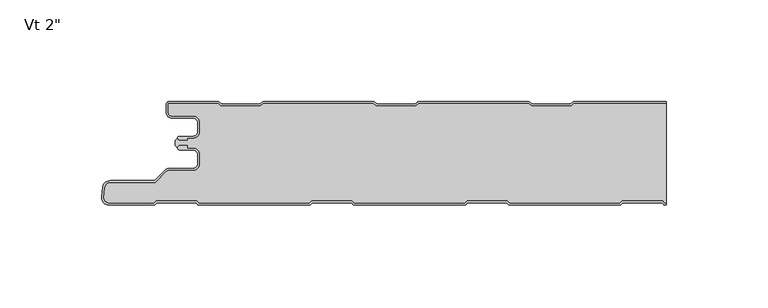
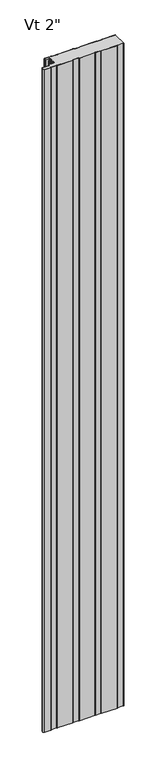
"""IFC4 building model written with IfcOpenShell, lengths in millimetres: plate geometry."""

from ifc_helpers import new_model, si_unit, point, frame, frame_2d, origin, origin_with_axes, place, context, project, spatial, polyline, circle_curve, trimmed, segment, composite_curve, outline, extrude, source, transform, mapped, element, save
from ifc_brep_helpers import plane_surface, cylinder_surface, revolved_surface, advanced_brep


def plate_7f2e1a05(model_context):
    return source(origin(), model_context, "Body", "SolidModel", [
        extrude(outline(composite_curve([segment(polyline([(-119.3683, -22.4760035), (-120.3999998, -21.4443036), (-120.3999998, -19.0391626), (-119.3686882, -18.0078509)]), True, "CONTINUOUS"), segment(trimmed(circle_curve(frame_2d((-118.368691, -18.007845)), 0.9999972), [point((-119.3686882, -18.0078509))], [point((-118.368691, -19.0078422))], True, "CARTESIAN"), True, "CONTINUOUS"), segment(polyline([(-118.368691, -19.0078422), (-114.3684873, -19.0078422), (-114.3684873, -18.0078476), (-111.6762775, -18.0078476)]), True, "CONTINUOUS"), segment(trimmed(circle_curve(frame_2d((-111.6762775, -14.707852)), 3.2999957), [point((-111.6762775, -18.0078476))], [point((-108.3762818, -14.707852))], True, "CARTESIAN"), True, "CONTINUOUS"), segment(polyline([(-108.3762818, -14.707852), (-108.3762818, -10.3078607)]), True, "CONTINUOUS"), segment(trimmed(circle_curve(frame_2d((-111.6762777, -10.3078607)), 3.2999959), [point((-108.3762818, -10.3078607))], [point((-111.6762777, -7.0078649))], True, "CARTESIAN"), True, "CONTINUOUS"), segment(polyline([(-111.6762777, -7.0078649), (-122.0962562, -7.0078649)]), True, "CONTINUOUS"), segment(trimmed(circle_curve(frame_2d((-122.0962562, -5.2378707)), 1.7699942), [point((-122.0962562, -7.0078649))], [point((-123.8662504, -5.2378707))], False, "CARTESIAN"), True, "CONTINUOUS"), segment(polyline([(-123.8662504, -5.2378707), (-123.8662504, -1.0063234), (-99.3659738, -1.0063234), (-97.9803312, -2.2065624), (-78.6051649, -2.2065624), (-77.2195319, -1.0063317), (-23.1661165, -1.0063317), (-21.7804836, -2.2065624), (-2.4053173, -2.2065624), (-1.0196843, -1.0063317), (53.0337311, -1.0063317), (54.419364, -2.2065624), (73.7945303, -2.2065624), (75.1801633, -1.0063317), (120.3999998, -1.0063317), (120.3999998, -49.7999874), (119.8405328, -49.7999874), (118.6403021, -48.5997567), (98.9208896, -48.5997567), (97.7206589, -49.7999874), (43.6405271, -49.7999874), (42.4402964, -48.5997567), (22.7208839, -48.5997567), (21.5206532, -49.7999874), (-32.5594786, -49.7999874), (-33.7597093, -48.5997567), (-53.4791218, -48.5997567), (-54.6793525, -49.7999874), (-108.7594843, -49.7999874), (-109.959715, -48.5997567), (-129.6791275, -48.5997567), (-130.879096, -49.7997253), (-152.8521175, -49.7997253)]), True, "CONTINUOUS"), segment(trimmed(circle_curve(frame_2d((-152.8521175, -47.229486)), 2.5702393), [point((-152.8521175, -49.7997253))], [point((-155.4125697, -47.0054003))], False, "CARTESIAN"), True, "CONTINUOUS"), segment(polyline([(-155.4125697, -47.0054003), (-154.9765707, -42.0235795)]), True, "CONTINUOUS"), segment(trimmed(circle_curve(frame_2d((-152.3198391, -42.5049701)), 2.6999926), [point((-154.9765707, -42.0235795))], [point((-152.3198391, -39.8049775))], False, "CARTESIAN"), True, "CONTINUOUS"), segment(polyline([(-152.3198391, -39.8049775), (-130.2247094, -39.8049775), (-124.7226383, -34.3029064)]), True, "CONTINUOUS"), segment(trimmed(circle_curve(frame_2d((-123.5205606, -35.5049841)), 1.6999946), [point((-124.7226383, -34.3029064))], [point((-123.5205606, -33.8049895))], False, "CARTESIAN"), True, "CONTINUOUS"), segment(polyline([(-123.5205606, -33.8049895), (-111.7096715, -33.8049895)]), True, "CONTINUOUS"), segment(trimmed(circle_curve(frame_2d((-111.7096715, -30.4549942)), 3.3499953), [point((-111.7096715, -33.8049895))], [point((-108.3596762, -30.4549942))], True, "CARTESIAN"), True, "CONTINUOUS"), segment(polyline([(-108.3596762, -30.4549942), (-108.3596762, -26.055003)]), True, "CONTINUOUS"), segment(trimmed(circle_curve(frame_2d((-111.7096715, -26.055003)), 3.3499953), [point((-108.3596762, -26.055003))], [point((-111.7096715, -22.7050077))], True, "CARTESIAN"), True, "CONTINUOUS"), segment(polyline([(-111.7096715, -22.7050077), (-114.4087826, -22.7050077), (-114.4087826, -21.3065288), (-118.167176, -21.3065288)]), True, "CONTINUOUS"), segment(trimmed(circle_curve(frame_2d((-118.1686906, -22.5065254)), 1.1999976), [point((-118.167176, -21.3065288))], [point((-119.3683, -22.4760035))], True, "CARTESIAN"), True, "CONTINUOUS")], self_intersect=False)), origin_with_axes(), (0.0, 0.0, 1.0), 2400.0),
        advanced_brep(
        [(-118.368691, -17.0015034, 2400.0), (-119.3686883, -18.0015065, 2400.0), (-118.368691, -19.0014978, 2400.0), (-114.3684874, -19.0014979, 2400.0), (-114.3684874, -18.0015034, 2400.0), (-111.6762776, -18.0015034, 2400.0), (-108.3762819, -14.7015077, 2400.0), (-108.3762819, -10.3015164, 2400.0), (-111.6762774, -7.001521, 2400.0), (-122.0962563, -7.001521, 2400.0), (-123.8662505, -5.2315268, 2400.0), (-123.8662505, -0.9999791, 2400.0), (-99.3659738, -0.9999791, 2400.0), (-97.9803312, -2.2002182, 2400.0), (-78.6051649, -2.2002182, 2400.0), (-77.219532, -0.9999874, 2400.0), (-23.1661166, -0.9999874, 2400.0), (-21.7804836, -2.2002182, 2400.0), (-2.4053173, -2.2002182, 2400.0), (-1.0196844, -0.9999874, 2400.0), (53.033731, -0.9999874, 2400.0), (54.419364, -2.2002182, 2400.0), (73.7945303, -2.2002182, 2400.0), (75.1801632, -0.9999874, 2400.0), (120.3999998, -0.9999874, 2400.0), (120.3999998, 1.26e-05, 2400.0), (75.3293144, 1.26e-05, 2400.0), (74.4126975, -0.3417759, 2400.0), (73.4216499, -1.2002182, 2400.0), (54.7922444, -1.2002182, 2400.0), (53.8011968, -0.3417759, 2400.0), (52.8845799, 1.26e-05, 2400.0), (-0.8705332, 1.26e-05, 2400.0), (-1.7871501, -0.3417759, 2400.0), (-2.7781977, -1.2002182, 2400.0), (-21.4076032, -1.2002182, 2400.0), (-22.3986508, -0.3417759, 2400.0), (-23.3152677, 1.26e-05, 2400.0), (-77.0703808, 1.26e-05, 2400.0), (-77.9869977, -0.3417759, 2400.0), (-78.9780453, -1.2002182, 2400.0), (-97.6074508, -1.2002182, 2400.0), (-98.5984984, -0.3417759, 2400.0), (-99.5152067, 1.26e-05, 2400.0), (-123.4662543, 2.09e-05, 2400.0), (-124.8662505, -1.3999752, 2400.0), (-124.8662505, -5.2315268, 2400.0), (-122.0962563, -8.001521, 2400.0), (-111.6762774, -8.001521, 2400.0), (-109.3762819, -10.3015164, 2400.0), (-109.3762819, -14.7015077, 2400.0), (-111.6762776, -17.0015034, 2400.0), (-118.368691, -17.0015034, 0.0), (-111.6762776, -17.0015034, 0.0), (-109.3762819, -14.7015077, 0.0), (-109.3762819, -10.3015164, 0.0), (-111.6762774, -8.001521, 0.0), (-122.0962563, -8.001521, 0.0), (-124.8662505, -5.2315268, 0.0), (-124.8662505, -1.3999752, 0.0), (-123.4662543, 2.09e-05, 0.0), (-99.5151153, 2.09e-05, 0.0), (-98.5984984, -0.3417759, 0.0), (-97.6074508, -1.2002182, 0.0), (-78.9780453, -1.2002182, 0.0), (-77.9869977, -0.3417759, 0.0), (-77.0703808, 1.26e-05, 0.0), (-23.3152677, 1.26e-05, 0.0), (-22.3986508, -0.3417759, 0.0), (-21.4076032, -1.2002182, 0.0), (-2.7781977, -1.2002182, 0.0), (-1.7871501, -0.3417759, 0.0), (-0.8705332, 1.26e-05, 0.0), (52.8845799, 1.26e-05, 0.0), (53.8011968, -0.3417759, 0.0), (54.7922444, -1.2002182, 0.0), (73.4216499, -1.2002182, 0.0), (74.4126975, -0.3417759, 0.0), (75.3293144, 1.26e-05, 0.0), (120.3999998, 1.26e-05, 0.0), (120.3999998, -0.9999874, 0.0), (75.1801632, -0.9999874, 0.0), (73.7945303, -2.2002182, 0.0), (54.419364, -2.2002182, 0.0), (53.033731, -0.9999874, 0.0), (-1.0196844, -0.9999874, 0.0), (-2.4053173, -2.2002182, 0.0), (-21.7804836, -2.2002182, 0.0), (-23.1661166, -0.9999874, 0.0), (-77.219532, -0.9999874, 0.0), (-78.6051649, -2.2002182, 0.0), (-97.9803312, -2.2002182, 0.0), (-99.3659738, -0.9999791, 0.0), (-123.8662505, -0.9999791, 0.0), (-123.8662505, -5.2315268, 0.0), (-122.0962563, -7.001521, 0.0), (-111.6762774, -7.001521, 0.0), (-108.3762819, -10.3015164, 0.0), (-108.3762819, -14.7015077, 0.0), (-111.6762776, -18.0015034, 0.0), (-114.3684874, -18.0015034, 0.0), (-114.3684874, -19.0014979, 0.0), (-118.368691, -19.0014979, 0.0), (-119.3686882, -18.0015065, 0.0)],
        [
            (0, 1, circle_curve(frame((-118.368691, -18.0015006, 2400.0), z_axis=(0.0, 0.0, 1.0), x_axis=(1.0, 0.0, 0.0)), 0.9999973)),
            (1, 2, circle_curve(frame((-118.368691, -18.0015006, 2400.0), z_axis=(0.0, 0.0, 1.0), x_axis=(1.0, 0.0, 0.0)), 0.9999972)),
            (2, 3),
            (3, 4),
            (4, 5),
            (5, 6, circle_curve(frame((-111.6762776, -14.7015077, 2400.0), z_axis=(0.0, 0.0, 1.0), x_axis=(1.0, 0.0, 0.0)), 3.2999957)),
            (6, 7),
            (7, 8, circle_curve(frame((-111.6762774, -10.3015164, 2400.0), z_axis=(0.0, 0.0, 1.0), x_axis=(1.0, 0.0, 0.0)), 3.2999955)),
            (8, 9),
            (9, 10, circle_curve(frame((-122.0962563, -5.2315268, 2400.0), z_axis=(0.0, 0.0, -1.0), x_axis=(1.0, 0.0, 0.0)), 1.7699942)),
            (10, 11),
            (11, 12),
            (12, 13),
            (13, 14),
            (14, 15),
            (15, 16),
            (16, 17),
            (17, 18),
            (18, 19),
            (19, 20),
            (20, 21),
            (21, 22),
            (22, 23),
            (23, 24),
            (24, 25),
            (25, 26),
            (26, 27, circle_curve(frame((75.3293144, -1.3999846, 2400.0), z_axis=(0.0, 0.0, 1.0), x_axis=(1.0, 0.0, 0.0)), 1.3999972)),
            (27, 28),
            (28, 29),
            (29, 30),
            (30, 31, circle_curve(frame((52.8845799, -1.3999846, 2400.0), z_axis=(0.0, 0.0, 1.0), x_axis=(1.0, 0.0, 0.0)), 1.3999972)),
            (31, 32),
            (32, 33, circle_curve(frame((-0.8705332, -1.3999846, 2400.0), z_axis=(0.0, 0.0, 1.0), x_axis=(1.0, 0.0, 0.0)), 1.3999972)),
            (33, 34),
            (34, 35),
            (35, 36),
            (36, 37, circle_curve(frame((-23.3152677, -1.3999846, 2400.0), z_axis=(0.0, 0.0, 1.0), x_axis=(1.0, 0.0, 0.0)), 1.3999972)),
            (37, 38),
            (38, 39, circle_curve(frame((-77.0703808, -1.3999846, 2400.0), z_axis=(0.0, 0.0, 1.0), x_axis=(1.0, 0.0, 0.0)), 1.3999972)),
            (39, 40),
            (40, 41),
            (41, 42),
            (42, 43, circle_curve(frame((-99.5151153, -1.3999846, 2400.0), z_axis=(0.0, 0.0, 1.0), x_axis=(1.0, 0.0, 0.0)), 1.3999972)),
            (43, 44),
            (44, 45, circle_curve(frame((-123.4662543, -1.3999752, 2400.0), z_axis=(0.0, 0.0, 1.0), x_axis=(1.0, 0.0, 0.0)), 1.3999962)),
            (45, 46),
            (46, 47, circle_curve(frame((-122.0962563, -5.2315268, 2400.0), z_axis=(0.0, 0.0, 1.0), x_axis=(1.0, 0.0, 0.0)), 2.7699942)),
            (47, 48),
            (48, 49, circle_curve(frame((-111.6762774, -10.3015164, 2400.0), z_axis=(0.0, 0.0, -1.0), x_axis=(1.0, 0.0, 0.0)), 2.2999955)),
            (49, 50),
            (50, 51, circle_curve(frame((-111.6762776, -14.7015077, 2400.0), z_axis=(0.0, 0.0, -1.0), x_axis=(1.0, 0.0, 0.0)), 2.2999957)),
            (51, 0),
            (52, 53),
            (53, 54, circle_curve(frame((-111.6762776, -14.7015077, 0.0), z_axis=(0.0, 0.0, 1.0), x_axis=(1.0, 0.0, 0.0)), 2.2999957)),
            (54, 55),
            (55, 56, circle_curve(frame((-111.6762774, -10.3015164, 0.0), z_axis=(0.0, 0.0, 1.0), x_axis=(1.0, 0.0, 0.0)), 2.2999955)),
            (56, 57),
            (57, 58, circle_curve(frame((-122.0962563, -5.2315268, 0.0), z_axis=(0.0, 0.0, -1.0), x_axis=(1.0, 0.0, 0.0)), 2.7699942)),
            (58, 59),
            (59, 60, circle_curve(frame((-123.4662543, -1.3999752, 0.0), z_axis=(0.0, 0.0, -1.0), x_axis=(1.0, 0.0, 0.0)), 1.3999962)),
            (60, 61),
            (61, 62, circle_curve(frame((-99.5151153, -1.3999846, 0.0), z_axis=(0.0, 0.0, -1.0), x_axis=(1.0, 0.0, 0.0)), 1.3999972)),
            (62, 63),
            (63, 64),
            (64, 65),
            (65, 66, circle_curve(frame((-77.0703808, -1.3999846, 0.0), z_axis=(0.0, 0.0, -1.0), x_axis=(1.0, 0.0, 0.0)), 1.3999972)),
            (66, 67),
            (67, 68, circle_curve(frame((-23.3152677, -1.3999846, 0.0), z_axis=(0.0, 0.0, -1.0), x_axis=(1.0, 0.0, 0.0)), 1.3999972)),
            (68, 69),
            (69, 70),
            (70, 71),
            (71, 72, circle_curve(frame((-0.8705332, -1.3999846, 0.0), z_axis=(0.0, 0.0, -1.0), x_axis=(1.0, 0.0, 0.0)), 1.3999972)),
            (72, 73),
            (73, 74, circle_curve(frame((52.8845799, -1.3999846, 0.0), z_axis=(0.0, 0.0, -1.0), x_axis=(1.0, 0.0, 0.0)), 1.3999972)),
            (74, 75),
            (75, 76),
            (76, 77),
            (77, 78, circle_curve(frame((75.3293144, -1.3999846, 0.0), z_axis=(0.0, 0.0, -1.0), x_axis=(1.0, 0.0, 0.0)), 1.3999972)),
            (78, 79),
            (79, 80),
            (80, 81),
            (81, 82),
            (82, 83),
            (83, 84),
            (84, 85),
            (85, 86),
            (86, 87),
            (87, 88),
            (88, 89),
            (89, 90),
            (90, 91),
            (91, 92),
            (92, 93),
            (93, 94),
            (94, 95, circle_curve(frame((-122.0962563, -5.2315268, 0.0), z_axis=(0.0, 0.0, 1.0), x_axis=(1.0, 0.0, 0.0)), 1.7699942)),
            (95, 96),
            (96, 97, circle_curve(frame((-111.6762774, -10.3015164, 0.0), z_axis=(0.0, 0.0, -1.0), x_axis=(1.0, 0.0, 0.0)), 3.2999955)),
            (97, 98),
            (98, 99, circle_curve(frame((-111.6762776, -14.7015077, 0.0), z_axis=(0.0, 0.0, -1.0), x_axis=(1.0, 0.0, 0.0)), 3.2999957)),
            (99, 100),
            (100, 101),
            (101, 102),
            (102, 103, circle_curve(frame((-118.368691, -18.0015006, 0.0), z_axis=(0.0, 0.0, -1.0), x_axis=(1.0, 0.0, 0.0)), 0.9999972)),
            (103, 52, circle_curve(frame((-118.368691, -18.0015006, 0.0), z_axis=(0.0, 0.0, -1.0), x_axis=(1.0, 0.0, 0.0)), 0.9999973)),
            (24, 80),
            (79, 25),
            (51, 53),
            (52, 0),
            (50, 54),
            (49, 55),
            (48, 56),
            (47, 57),
            (46, 58),
            (45, 59),
            (44, 60),
            (43, 61),
            (78, 26),
            (42, 62),
            (41, 63),
            (40, 64),
            (38, 66),
            (65, 39),
            (36, 68),
            (67, 37),
            (77, 27),
            (76, 28),
            (31, 73),
            (72, 32),
            (71, 33),
            (34, 70),
            (69, 35),
            (30, 74),
            (29, 75),
            (2, 102),
            (101, 3),
            (1, 103),
            (23, 81),
            (22, 82),
            (21, 83),
            (20, 84),
            (19, 85),
            (18, 86),
            (17, 87),
            (16, 88),
            (15, 89),
            (14, 90),
            (13, 91),
            (12, 92),
            (11, 93),
            (10, 94),
            (9, 95),
            (8, 96),
            (7, 97),
            (6, 98),
            (5, 99),
            (4, 100),
        ],
        [
            plane_surface(frame((184.4000002, 1.26e-05, 2400.0), z_axis=(0.0, 0.0, 1.0), x_axis=(0.0, 1.0, 0.0))),
            plane_surface(frame((184.4000002, 1.26e-05, 0.0), z_axis=(0.0, 0.0, -1.0), x_axis=(0.0, 1.0, 0.0))),
            plane_surface(frame((120.3999998, -60.7999874, 2400.0), z_axis=(1.0, 0.0, 0.0), x_axis=(0.0, 0.0, -1.0))),
            plane_surface(frame((-118.368691, -17.0015034, 2400.0), z_axis=(0.0, 1.0, 0.0), x_axis=(0.0, 0.0, -1.0))),
            revolved_surface(polyline([(-109.37628190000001, -14.7015077, 0.0), (-109.37628190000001, -14.7015077, 2400.0)]), (-111.6762776, -14.7015077, 2400.0), (0.0, 0.0, -1.0)),
            plane_surface(frame((-109.3762819, -14.7015077, 2400.0), z_axis=(-1.0, 0.0, 0.0), x_axis=(0.0, 0.0, -1.0))),
            revolved_surface(polyline([(-109.37628190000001, -10.3015164, 0.0), (-109.37628190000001, -10.3015164, 2400.0)]), (-111.6762774, -10.3015164, 2400.0), (0.0, 0.0, -1.0)),
            plane_surface(frame((-111.6762774, -8.001521, 2400.0), z_axis=(0.0, -1.0, 0.0), x_axis=(0.0, 0.0, -1.0))),
            cylinder_surface(frame((-122.0962563, -5.2315268, 2400.0), z_axis=(0.0, 0.0, 1.0), x_axis=(1.0, 0.0, 0.0)), 2.7699942),
            plane_surface(frame((-124.8662505, -5.2315268, 2400.0), z_axis=(-1.0, 0.0, 0.0), x_axis=(0.0, 0.0, -1.0))),
            cylinder_surface(frame((-123.4662543, -1.3999752, 2400.0), z_axis=(0.0, 0.0, 1.0), x_axis=(1.0, 0.0, 0.0)), 1.3999962),
            plane_surface(frame((-123.4662543, 2.09e-05, 2400.0), z_axis=(0.0, 1.0, 0.0), x_axis=(0.0, 0.0, -1.0))),
            plane_surface(frame((75.3293144, 1.26e-05, 2400.0), z_axis=(0.0, 1.0, 0.0), x_axis=(0.0, 0.0, -1.0))),
            cylinder_surface(frame((-99.5151153, -1.3999846, 2400.0), z_axis=(0.0, 0.0, 1.0), x_axis=(1.0, 0.0, 0.0)), 1.3999972),
            plane_surface(frame((-98.5984984, -0.3417759, 2400.0), z_axis=(0.6547276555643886, 0.755864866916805, 0.0), x_axis=(0.0, 0.0, -1.0))),
            plane_surface(frame((-88.2927481, -1.2002182, 2400.0), z_axis=(0.0, 1.0, 0.0), x_axis=(0.0, 0.0, -1.0))),
            cylinder_surface(frame((-77.0703808, -1.3999846, 2400.0), z_axis=(0.0, 0.0, 1.0), x_axis=(1.0, 0.0, 0.0)), 1.3999972),
            plane_surface(frame((-78.9780453, -1.2002182, 2400.0), z_axis=(-0.6547276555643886, 0.755864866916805, 0.0), x_axis=(0.0, 0.0, -1.0))),
            cylinder_surface(frame((-23.3152677, -1.3999846, 2400.0), z_axis=(0.0, 0.0, 1.0), x_axis=(1.0, 0.0, 0.0)), 1.3999972),
            cylinder_surface(frame((75.3293144, -1.3999846, 2400.0), z_axis=(0.0, 0.0, 1.0), x_axis=(1.0, 0.0, 0.0)), 1.3999972),
            plane_surface(frame((73.4216499, -1.2002182, 2400.0), z_axis=(-0.6547276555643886, 0.755864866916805, 0.0), x_axis=(0.0, 0.0, -1.0))),
            plane_surface(frame((-0.8705332, 1.26e-05, 2400.0), z_axis=(0.0, 1.0, 0.0), x_axis=(0.0, 0.0, -1.0))),
            cylinder_surface(frame((-0.8705332, -1.3999846, 2400.0), z_axis=(0.0, 0.0, 1.0), x_axis=(1.0, 0.0, 0.0)), 1.3999972),
            plane_surface(frame((-12.0929005, -1.2002182, 2400.0), z_axis=(0.0, 1.0, 0.0), x_axis=(0.0, 0.0, -1.0))),
            plane_surface(frame((-22.3986508, -0.3417759, 2400.0), z_axis=(0.6547276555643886, 0.755864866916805, 0.0), x_axis=(0.0, 0.0, -1.0))),
            plane_surface(frame((-2.7781977, -1.2002182, 2400.0), z_axis=(-0.6547276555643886, 0.755864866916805, 0.0), x_axis=(0.0, 0.0, -1.0))),
            plane_surface(frame((-77.0703808, 1.26e-05, 2400.0), z_axis=(0.0, 1.0, 0.0), x_axis=(0.0, 0.0, -1.0))),
            cylinder_surface(frame((52.8845799, -1.3999846, 2400.0), z_axis=(0.0, 0.0, 1.0), x_axis=(1.0, 0.0, 0.0)), 1.3999972),
            plane_surface(frame((53.8011968, -0.3417759, 2400.0), z_axis=(0.6547276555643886, 0.755864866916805, 0.0), x_axis=(0.0, 0.0, -1.0))),
            plane_surface(frame((64.1069471, -1.2002182, 2400.0), z_axis=(0.0, 1.0, 0.0), x_axis=(0.0, 0.0, -1.0))),
            plane_surface(frame((-114.3684874, -19.0014979, 2400.0), z_axis=(0.0, -1.0, 0.0), x_axis=(0.0, 0.0, -1.0))),
            cylinder_surface(frame((-118.368691, -18.0015006, 2400.0), z_axis=(0.0, 0.0, 1.0), x_axis=(1.0, 0.0, 0.0)), 0.9999972),
            cylinder_surface(frame((-118.368691, -18.0015006, 2400.0), z_axis=(0.0, 0.0, 1.0), x_axis=(1.0, 0.0, 0.0)), 0.9999973),
            plane_surface(frame((129.2335786, -0.9999874, 2400.0), z_axis=(0.0, -1.0, 0.0), x_axis=(0.0, 0.0, -1.0))),
            plane_surface(frame((75.1801632, -0.9999874, 2400.0), z_axis=(0.6547276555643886, -0.755864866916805, 0.0), x_axis=(0.0, 0.0, -1.0))),
            plane_surface(frame((73.7945303, -2.2002182, 2400.0), z_axis=(0.0, -1.0, 0.0), x_axis=(0.0, 0.0, -1.0))),
            plane_surface(frame((54.419364, -2.2002182, 2400.0), z_axis=(-0.6547276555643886, -0.755864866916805, 0.0), x_axis=(0.0, 0.0, -1.0))),
            plane_surface(frame((53.033731, -0.9999874, 2400.0), z_axis=(0.0, -1.0, 0.0), x_axis=(0.0, 0.0, -1.0))),
            plane_surface(frame((-1.0196844, -0.9999874, 2400.0), z_axis=(0.6547276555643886, -0.755864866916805, 0.0), x_axis=(0.0, 0.0, -1.0))),
            plane_surface(frame((-2.4053173, -2.2002182, 2400.0), z_axis=(0.0, -1.0, 0.0), x_axis=(0.0, 0.0, -1.0))),
            plane_surface(frame((-21.7804836, -2.2002182, 2400.0), z_axis=(-0.6547276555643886, -0.755864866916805, 0.0), x_axis=(0.0, 0.0, -1.0))),
            plane_surface(frame((-23.1661166, -0.9999874, 2400.0), z_axis=(0.0, -1.0, 0.0), x_axis=(0.0, 0.0, -1.0))),
            plane_surface(frame((-77.219532, -0.9999874, 2400.0), z_axis=(0.6547276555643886, -0.755864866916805, 0.0), x_axis=(0.0, 0.0, -1.0))),
            plane_surface(frame((-78.6051649, -2.2002182, 2400.0), z_axis=(0.0, -1.0, 0.0), x_axis=(0.0, 0.0, -1.0))),
            plane_surface(frame((-97.9803312, -2.2002182, 2400.0), z_axis=(-0.6547276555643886, -0.755864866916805, 0.0), x_axis=(0.0, 0.0, -1.0))),
            plane_surface(frame((-99.3659738, -0.9999791, 2400.0), z_axis=(0.0, -1.0, 0.0), x_axis=(0.0, 0.0, -1.0))),
            plane_surface(frame((-123.8662505, -0.9999791, 2400.0), z_axis=(1.0, 0.0, 0.0), x_axis=(0.0, 0.0, -1.0))),
            revolved_surface(polyline([(-120.3262621, -5.2315268, 0.0), (-120.3262621, -5.2315268, 2400.0)]), (-122.0962563, -5.2315268, 2400.0), (0.0, 0.0, -1.0)),
            plane_surface(frame((-122.0962563, -7.001521, 2400.0), z_axis=(0.0, 1.0, 0.0), x_axis=(0.0, 0.0, -1.0))),
            cylinder_surface(frame((-111.6762774, -10.3015164, 2400.0), z_axis=(0.0, 0.0, 1.0), x_axis=(1.0, 0.0, 0.0)), 3.2999955),
            plane_surface(frame((-108.3762819, -10.3015164, 2400.0), z_axis=(1.0, 0.0, 0.0), x_axis=(0.0, 0.0, -1.0))),
            cylinder_surface(frame((-111.6762776, -14.7015077, 2400.0), z_axis=(0.0, 0.0, 1.0), x_axis=(1.0, 0.0, 0.0)), 3.2999957),
            plane_surface(frame((-111.6762776, -18.0015034, 2400.0), z_axis=(0.0, -1.0, 0.0), x_axis=(0.0, 0.0, -1.0))),
            plane_surface(frame((-114.3684874, -18.0015034, 2400.0), z_axis=(1.0, 0.0, 0.0), x_axis=(0.0, 0.0, -1.0))),
        ],
        [
            (0, [[1, 2, 3, 4, 5, 6, 7, 8, 9, 10, 11, 12, 13, 14, 15, 16, 17, 18, 19, 20, 21, 22, 23, 24, 25, 26, 27, 28, 29, 30, 31, 32, 33, 34, 35, 36, 37, 38, 39, 40, 41, 42, 43, 44, 45, 46, 47, 48, 49, 50, 51, 52]]),
            (1, [[53, 54, 55, 56, 57, 58, 59, 60, 61, 62, 63, 64, 65, 66, 67, 68, 69, 70, 71, 72, 73, 74, 75, 76, 77, 78, 79, 80, 81, 82, 83, 84, 85, 86, 87, 88, 89, 90, 91, 92, 93, 94, 95, 96, 97, 98, 99, 100, 101, 102, 103, 104]]),
            (2, [[105, -80, 106, -25]]),
            (3, [[107, -53, 108, -52]]),
            (4, [[109, -54, -107, -51]]),
            (5, [[110, -55, -109, -50]]),
            (6, [[111, -56, -110, -49]]),
            (7, [[112, -57, -111, -48]]),
            (8, [[113, -58, -112, -47]]),
            (9, [[114, -59, -113, -46]]),
            (10, [[115, -60, -114, -45]]),
            (11, [[116, -61, -115, -44]]),
            (12, [[-26, -106, -79, 117]]),
            (13, [[118, -62, -116, -43]]),
            (14, [[119, -63, -118, -42]]),
            (15, [[120, -64, -119, -41]]),
            (16, [[121, -66, 122, -39]]),
            (17, [[-122, -65, -120, -40]]),
            (18, [[123, -68, 124, -37]]),
            (19, [[-117, -78, 125, -27]]),
            (20, [[-125, -77, 126, -28]]),
            (21, [[127, -73, 128, -32]]),
            (22, [[-128, -72, 129, -33]]),
            (23, [[130, -70, 131, -35]]),
            (24, [[-131, -69, -123, -36]]),
            (25, [[-129, -71, -130, -34]]),
            (26, [[-124, -67, -121, -38]]),
            (27, [[132, -74, -127, -31]]),
            (28, [[133, -75, -132, -30]]),
            (29, [[-126, -76, -133, -29]]),
            (30, [[134, -102, 135, -3]]),
            (31, [[136, -103, -134, -2]]),
            (32, [[-108, -104, -136, -1]]),
            (33, [[-81, -105, -24, 137]]),
            (34, [[138, -82, -137, -23]]),
            (35, [[139, -83, -138, -22]]),
            (36, [[140, -84, -139, -21]]),
            (37, [[141, -85, -140, -20]]),
            (38, [[142, -86, -141, -19]]),
            (39, [[143, -87, -142, -18]]),
            (40, [[144, -88, -143, -17]]),
            (41, [[145, -89, -144, -16]]),
            (42, [[146, -90, -145, -15]]),
            (43, [[147, -91, -146, -14]]),
            (44, [[148, -92, -147, -13]]),
            (45, [[149, -93, -148, -12]]),
            (46, [[150, -94, -149, -11]]),
            (47, [[151, -95, -150, -10]]),
            (48, [[152, -96, -151, -9]]),
            (49, [[153, -97, -152, -8]]),
            (50, [[154, -98, -153, -7]]),
            (51, [[155, -99, -154, -6]]),
            (52, [[156, -100, -155, -5]]),
            (53, [[-135, -101, -156, -4]]),
        ],
    ),
        extrude(outline(composite_curve([segment(polyline([(-131.0415932, -50.7997253), (-152.8521175, -50.7997253)]), True, "CONTINUOUS"), segment(trimmed(circle_curve(frame_2d((-152.8521175, -47.229486)), 3.5702393), [point((-152.8521175, -50.7997253))], [point((-156.4087619, -46.9182156))], False, "CARTESIAN"), True, "CONTINUOUS"), segment(polyline([(-156.4087619, -46.9182156), (-155.9690674, -41.894169)]), True, "CONTINUOUS"), segment(trimmed(circle_curve(frame_2d((-152.3198391, -42.5049701)), 3.6999926), [point((-155.9690674, -41.894169))], [point((-152.3198391, -38.8049775))], False, "CARTESIAN"), True, "CONTINUOUS"), segment(polyline([(-152.3198391, -38.8049775), (-131.1773995, -38.8049775)]), True, "CONTINUOUS"), segment(trimmed(circle_curve(frame_2d((-131.1773995, -37.5049801)), 1.2999974), [point((-131.1773995, -38.8049775))], [point((-130.2581626, -38.4242171))], True, "CARTESIAN"), True, "CONTINUOUS"), segment(polyline([(-130.2581626, -38.4242171), (-125.4297451, -33.5957996)]), True, "CONTINUOUS"), segment(trimmed(circle_curve(frame_2d((-123.5205606, -35.5049841)), 2.6999946), [point((-125.4297451, -33.5957996))], [point((-123.5205606, -32.8049895))], False, "CARTESIAN"), True, "CONTINUOUS"), segment(polyline([(-123.5205606, -32.8049895), (-111.7096715, -32.8049895)]), True, "CONTINUOUS"), segment(trimmed(circle_curve(frame_2d((-111.7096715, -30.4549942)), 2.3499953), [point((-111.7096715, -32.8049895))], [point((-109.3596762, -30.4549942))], True, "CARTESIAN"), True, "CONTINUOUS"), segment(polyline([(-109.3596762, -30.4549942), (-109.3596762, -26.055003)]), True, "CONTINUOUS"), segment(trimmed(circle_curve(frame_2d((-111.7096715, -26.055003)), 2.3499953), [point((-109.3596762, -26.055003))], [point((-111.7096715, -23.7050077))], True, "CARTESIAN"), True, "CONTINUOUS"), segment(polyline([(-111.7096715, -23.7050077), (-118.2289777, -23.7050077)]), True, "CONTINUOUS"), segment(trimmed(circle_curve(frame_2d((-118.1686906, -22.5065254)), 1.1999976), [point((-118.2289777, -23.7050077))], [point((-119.3683, -22.4760035))], False, "CARTESIAN"), True, "CONTINUOUS"), segment(trimmed(circle_curve(frame_2d((-118.1686906, -22.5065254)), 1.1999976), [point((-119.3683, -22.4760035))], [point((-118.167176, -21.3065288))], False, "CARTESIAN"), True, "CONTINUOUS"), segment(polyline([(-118.167176, -21.3065288), (-114.4087826, -21.3065288), (-114.4087826, -22.7050077), (-111.7096715, -22.7050077)]), True, "CONTINUOUS"), segment(trimmed(circle_curve(frame_2d((-111.7096715, -26.055003)), 3.3499953), [point((-111.7096715, -22.7050077))], [point((-108.3596762, -26.055003))], False, "CARTESIAN"), True, "CONTINUOUS"), segment(polyline([(-108.3596762, -26.055003), (-108.3596762, -30.4549942)]), True, "CONTINUOUS"), segment(trimmed(circle_curve(frame_2d((-111.7096715, -30.4549942)), 3.3499953), [point((-108.3596762, -30.4549942))], [point((-111.7096715, -33.8049895))], False, "CARTESIAN"), True, "CONTINUOUS"), segment(polyline([(-111.7096715, -33.8049895), (-123.5205606, -33.8049895)]), True, "CONTINUOUS"), segment(trimmed(circle_curve(frame_2d((-123.5205606, -35.5049841)), 1.6999946), [point((-123.5205606, -33.8049895))], [point((-124.7226383, -34.3029064))], True, "CARTESIAN"), True, "CONTINUOUS"), segment(polyline([(-124.7226383, -34.3029064), (-130.2247094, -39.8049775), (-152.3198391, -39.8049775)]), True, "CONTINUOUS"), segment(trimmed(circle_curve(frame_2d((-152.3198391, -42.5049701)), 2.6999926), [point((-152.3198391, -39.8049775))], [point((-154.9765707, -42.0235795))], True, "CARTESIAN"), True, "CONTINUOUS"), segment(polyline([(-154.9765707, -42.0235795), (-155.4125697, -47.0054003)]), True, "CONTINUOUS"), segment(trimmed(circle_curve(frame_2d((-152.8521175, -47.229486)), 2.5702393), [point((-155.4125697, -47.0054003))], [point((-152.8521175, -49.7997253))], True, "CARTESIAN"), True, "CONTINUOUS"), segment(polyline([(-152.8521175, -49.7997253), (-130.879096, -49.7997253), (-129.6791275, -48.5997567), (-109.959715, -48.5997567), (-108.7594843, -49.7999874), (-54.6793525, -49.7999874), (-53.4791218, -48.5997567), (-33.7597093, -48.5997567), (-32.5594786, -49.7999874), (21.5206532, -49.7999874), (22.7208839, -48.5997567), (42.4402964, -48.5997567), (43.6405271, -49.7999874), (97.7206589, -49.7999874), (98.9208896, -48.5997567), (118.6403021, -48.5997567), (119.8405328, -49.7999874), (120.3999998, -49.7999874), (120.3999998, -50.7999874), (120.010284, -50.7999874)]), True, "CONTINUOUS"), segment(trimmed(circle_curve(frame_2d((120.0026306, -49.4000112)), 1.3999972), [point((120.010284, -50.7999874))], [point((118.9585798, -50.3327223))], False, "CARTESIAN"), True, "CONTINUOUS"), segment(polyline([(118.9585798, -50.3327223), (118.2256142, -49.5997567), (99.334945, -49.5997567), (98.6020004, -50.3327014)]), True, "CONTINUOUS"), segment(trimmed(circle_curve(frame_2d((97.5579496, -49.3999902)), 1.3999972), [point((98.6020004, -50.3327014))], [point((97.5579496, -50.7999874))], False, "CARTESIAN"), True, "CONTINUOUS"), segment(polyline([(97.5579496, -50.7999874), (43.8104364, -50.7999874)]), True, "CONTINUOUS"), segment(trimmed(circle_curve(frame_2d((43.802783, -49.4000112)), 1.3999972), [point((43.8104364, -50.7999874))], [point((42.7587322, -50.3327223))], False, "CARTESIAN"), True, "CONTINUOUS"), segment(polyline([(42.7587322, -50.3327223), (42.0257666, -49.5997567), (23.1350974, -49.5997567), (22.4021528, -50.3327014)]), True, "CONTINUOUS"), segment(trimmed(circle_curve(frame_2d((21.358102, -49.3999902)), 1.3999972), [point((22.4021528, -50.3327014))], [point((21.358102, -50.7999874))], False, "CARTESIAN"), True, "CONTINUOUS"), segment(polyline([(21.358102, -50.7999874), (-32.3894112, -50.7999874)]), True, "CONTINUOUS"), segment(trimmed(circle_curve(frame_2d((-32.3970646, -49.4000112)), 1.3999972), [point((-32.3894112, -50.7999874))], [point((-33.4411154, -50.3327223))], False, "CARTESIAN"), True, "CONTINUOUS"), segment(polyline([(-33.4411154, -50.3327223), (-34.174081, -49.5997567), (-53.0647502, -49.5997567), (-53.7976948, -50.3327014)]), True, "CONTINUOUS"), segment(trimmed(circle_curve(frame_2d((-54.8417456, -49.3999902)), 1.3999972), [point((-53.7976948, -50.3327014))], [point((-54.8417456, -50.7999874))], False, "CARTESIAN"), True, "CONTINUOUS"), segment(polyline([(-54.8417456, -50.7999874), (-108.5892588, -50.7999874)]), True, "CONTINUOUS"), segment(trimmed(circle_curve(frame_2d((-108.5969122, -49.4000112)), 1.3999972), [point((-108.5892588, -50.7999874))], [point((-109.640963, -50.3327223))], False, "CARTESIAN"), True, "CONTINUOUS"), segment(polyline([(-109.640963, -50.3327223), (-110.3739286, -49.5997567), (-129.2649139, -49.5997567), (-129.9976402, -50.332483)]), True, "CONTINUOUS"), segment(trimmed(circle_curve(frame_2d((-131.0415932, -49.3998592)), 1.3998661), [point((-129.9976402, -50.332483))], [point((-131.0415932, -50.7997253))], False, "CARTESIAN"), True, "CONTINUOUS")], self_intersect=False)), origin_with_axes(), (0.0, 0.0, 1.0), 2400.0),
    ])


if __name__ == "__main__":
    model = new_model("IFC4")
    model_context = context("Model", 3, world=origin())
    ifc_project = project(units=[si_unit("LENGTHUNIT", "METRE", prefix="MILLI")], contexts=[model_context])
    site = spatial("IfcSite", under=ifc_project)
    building = spatial("IfcBuilding", under=site)
    placement = place(None, origin())
    plate_shape = plate_7f2e1a05(model_context)
    element("IfcPlate", 1, ObjectType="KIP-24-Karrier-KP-R19-CP-Vt-SL3-8in_SL : Vt 2\"", at=placement, inside=building, context=model_context, shape_type="MappedRepresentation", body=[
        mapped(plate_shape, transform((0.0, 0.0, 0.0), x_axis=(1.0, 0.0, 0.0), y_axis=(0.0, 1.0, 0.0), z_axis=(0.0, 0.0, 1.0))),
    ])
    save(model, "model.ifc")
